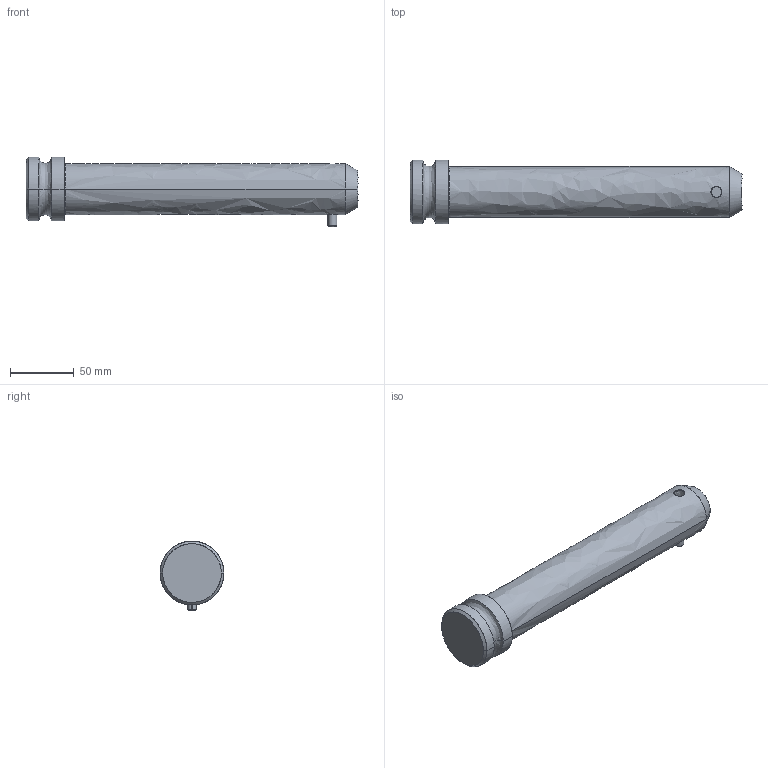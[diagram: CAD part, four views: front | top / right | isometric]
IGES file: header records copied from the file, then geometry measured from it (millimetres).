
Global section: file name: E:\UnigraphicsGraphicData\MISUMI_PRESS-PARTS\IGES\3d_hlfb40_04126_r00.igs; native system: NX V5.0; preprocessor: UGS NX IGES V5.0; author: MISUMI; date: 20110105.161014; units: millimetre
Bounding box: 260 x 50 x 54.61 mm (x, y, z)
Surface area: 39180.3 mm2 (no closed solid volume)
Topology: 0 solids, 0 shells, 54 faces, 336 edges, 336 vertices
Faces by surface type: bspline 54
